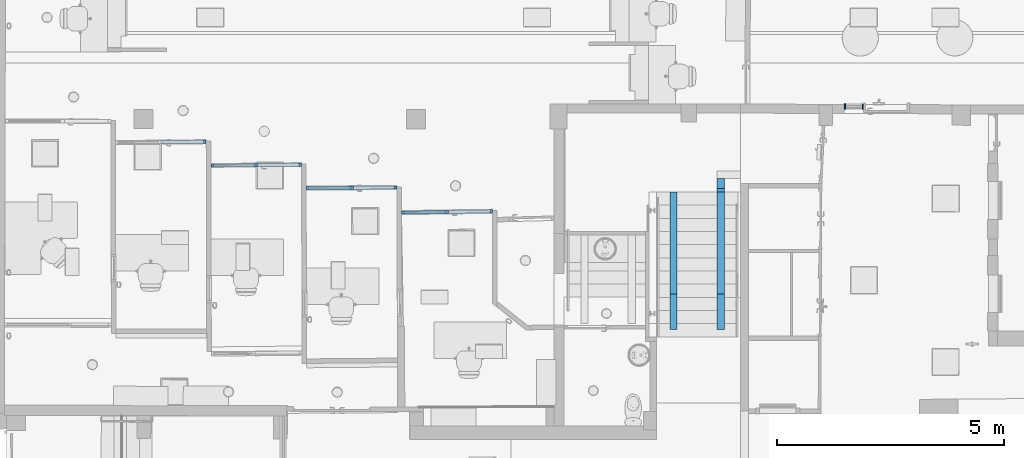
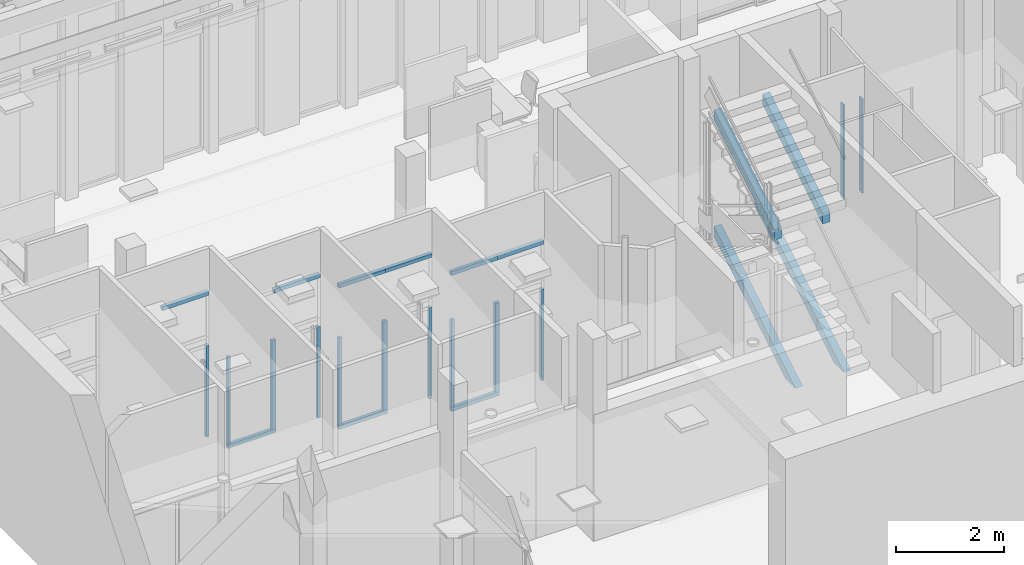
# One storey, part 7 of 128: 25 members, 6 elements without a shape of their own.
"""IFC2X3 building model written with IfcOpenShell, lengths in metres."""

from ifc_helpers import new_model, entity, si_unit, converted_unit, derived_unit, direction, frame, frame_2d, origin, origin_2d_with_axis, place, context, subcontext, project, spatial, polyline, rectangle, outline, extrude, source, transform, mapped, material, type_object, type_shapes, element, aggregate, save


model = new_model("IFC2X3")

# Units and contexts
model_context = context("Model", 3, precision=1e-05, world=origin(), true_north=direction((6.123031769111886e-17, 1.0)))
body_context = subcontext(model_context, "Body", "Model", "MODEL_VIEW")
ifc_project = project(units=[si_unit("LENGTHUNIT", "METRE"), si_unit("AREAUNIT", "SQUARE_METRE"), converted_unit("PLANEANGLEUNIT", "DEGREE", entity("IfcPlaneAngleMeasure", 0.017453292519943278), si_unit("PLANEANGLEUNIT", "RADIAN"), dimensions=[0, 0, 0, 0, 0, 0, 0]), derived_unit("THERMALTRANSMITTANCEUNIT", [(si_unit("MASSUNIT", "GRAM", prefix="KILO"), 1), (si_unit("THERMODYNAMICTEMPERATUREUNIT", "KELVIN"), -1), (si_unit("TIMEUNIT", "SECOND"), -3)])], contexts=[model_context])

# Site, building, storey
site_placement = place(None, origin())
site = spatial("IfcSite", under=ifc_project, at=site_placement, Name="Default", CompositionType="ELEMENT")
building_placement = place(site_placement, origin())
building = spatial("IfcBuilding", under=site, at=building_placement, CompositionType="ELEMENT")
storey_placement = place(building_placement, origin())
storey = spatial("IfcBuildingStorey", under=building, at=storey_placement, Name="00_RDC CAF", CompositionType="ELEMENT", Elevation=2.4982504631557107e-13)

# Curtain wall, member
curtain_wall_type_1 = type_object("IfcCurtainWallType", Name="Mur-rideau:M.Ri_Vitre_40mm_Montant_70X90mm", PredefinedType="NOTDEFINED")
curtain_wall_1_placement = place(storey_placement, origin())
curtain_wall_1 = element("IfcCurtainWall", 1, at=curtain_wall_1_placement, inside=storey, type_object=curtain_wall_type_1, Name="Mur-rideau:M.Ri_Vitre_40mm_Montant_70X90mm", ObjectType="Mur-rideau:M.Ri_Vitre_40mm_Montant_70X90mm")
ifc_material_1 = material(Name="ARC - M.In - Blanc")
member_type_1 = type_object("IfcMemberType", Name="Meneau rectangulaire:M.Ri.M_Int_Rectangulaire_90x70mm", PredefinedType="MULLION", material=ifc_material_1)
shared_shape_1 = source(origin(), body_context, "Body", "SweptSolid", [
    extrude(rectangle(XDim=0.09, YDim=0.06999999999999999, at=origin_2d_with_axis()), frame((-0.045, 0.0, -1.0058180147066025), z_axis=(0.0, 0.0, 1.0), x_axis=(-1.0, 0.0, 0.0)), (0.0, 0.0, 1.0), 1.0058180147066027),
])
type_shapes(member_type_1, [shared_shape_1])
member_1_placement = place(curtain_wall_1_placement, frame((11.111169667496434, 136.0535305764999, 3.294999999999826), z_axis=(0.9999489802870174, 0.010101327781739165, 0.0), x_axis=(0.0, 0.0, 1.0)))
member_1 = element("IfcMember", 2, at=member_1_placement, type_object=member_type_1, material=ifc_material_1, Name="Meneau rectangulaire:M.Ri.M_Int_Rectangulaire_90x70mm", ObjectType="Meneau rectangulaire:M.Ri.M_Int_Rectangulaire_90x70mm", context=body_context, shape_type="MappedRepresentation", body=[
    mapped(shared_shape_1, transform((0.0, 0.0, 0.0), scale=1.0)),
])

curtain_wall_2_placement = place(storey_placement, origin())
curtain_wall_2 = element("IfcCurtainWall", 3, at=curtain_wall_2_placement, inside=storey, type_object=curtain_wall_type_1, Name="Mur-rideau:M.Ri_Vitre_40mm_Montant_70X90mm", ObjectType="Mur-rideau:M.Ri_Vitre_40mm_Montant_70X90mm")
member_2_placement = place(curtain_wall_2_placement, frame((13.209965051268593, 135.54648401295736, 3.2649999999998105), z_axis=(0.9999489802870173, 0.010101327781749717, 0.0), x_axis=(0.0, 0.0, 1.0)))
member_2 = element("IfcMember", 4, at=member_2_placement, type_object=member_type_1, material=ifc_material_1, Name="Meneau rectangulaire:M.Ri.M_Int_Rectangulaire_90x70mm", ObjectType="Meneau rectangulaire:M.Ri.M_Int_Rectangulaire_90x70mm", context=body_context, shape_type="MappedRepresentation", body=[
    mapped(shared_shape_1, transform((0.0, 0.0, 0.0), scale=1.0)),
])

# Member
member_type_2 = type_object("IfcMemberType", Name="Meneau rectangulaire:M.Ri.M_Int_Rectangulaire_60x70mm", PredefinedType="MULLION", material=ifc_material_1)
shared_shape_2 = source(origin(), body_context, "Body", "SweptSolid", [
    extrude(rectangle(XDim=0.06, YDim=0.07, at=frame_2d((0.0, 3.469446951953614e-18), x_axis=(1.0, 0.0))), frame((-0.03, 0.0, -2.0749999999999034), z_axis=(0.0, 0.0, 1.0), x_axis=(-1.0, 0.0, 0.0)), (0.0, 0.0, 1.0), 2.0749999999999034),
])
type_shapes(member_type_2, [shared_shape_2])
member_3_placement = place(curtain_wall_1_placement, frame((11.111169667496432, 136.0535305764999, 0.0), z_axis=(0.0, 0.0, -1.0), x_axis=(0.9999489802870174, 0.010101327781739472, 0.0)))
member_3 = element("IfcMember", 5, at=member_3_placement, type_object=member_type_2, material=ifc_material_1, Name="Meneau rectangulaire:M.Ri.M_Int_Rectangulaire_60x70mm", ObjectType="Meneau rectangulaire:M.Ri.M_Int_Rectangulaire_60x70mm", context=body_context, shape_type="MappedRepresentation", body=[
    mapped(shared_shape_2, transform((0.0, 0.0, 0.0), scale=1.0)),
])

aggregate(curtain_wall_1, [member_1, member_3])

member_4_placement = place(curtain_wall_2_placement, frame((13.209965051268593, 135.54648401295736, 0.0), z_axis=(0.0, 0.0, -1.0), x_axis=(0.9999489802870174, 0.010101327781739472, 0.0)))
member_4 = element("IfcMember", 6, at=member_4_placement, type_object=member_type_2, material=ifc_material_1, Name="Meneau rectangulaire:M.Ri.M_Int_Rectangulaire_60x70mm", ObjectType="Meneau rectangulaire:M.Ri.M_Int_Rectangulaire_60x70mm", context=body_context, shape_type="MappedRepresentation", body=[
    mapped(shared_shape_2, transform((0.0, 0.0, 0.0), scale=1.0)),
])

# Curtain wall, member
curtain_wall_3_placement = place(storey_placement, origin())
curtain_wall_3 = element("IfcCurtainWall", 7, at=curtain_wall_3_placement, inside=storey, type_object=curtain_wall_type_1, Name="Mur-rideau:M.Ri_Vitre_40mm_Montant_70X90mm", ObjectType="Mur-rideau:M.Ri_Vitre_40mm_Montant_70X90mm")
member_5_placement = place(curtain_wall_3_placement, frame((15.313763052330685, 135.04352005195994, 0.0), z_axis=(0.0, 0.0, -1.0), x_axis=(0.9999841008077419, 0.005638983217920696, 0.0)))
member_5 = element("IfcMember", 8, at=member_5_placement, type_object=member_type_2, material=ifc_material_1, Name="Meneau rectangulaire:M.Ri.M_Int_Rectangulaire_60x70mm", ObjectType="Meneau rectangulaire:M.Ri.M_Int_Rectangulaire_60x70mm", context=body_context, shape_type="MappedRepresentation", body=[
    mapped(shared_shape_2, transform((0.0, 0.0, 0.0), scale=1.0)),
])

curtain_wall_4_placement = place(storey_placement, origin())
curtain_wall_4 = element("IfcCurtainWall", 9, at=curtain_wall_4_placement, inside=storey, type_object=curtain_wall_type_1, Name="Mur-rideau:M.Ri_Vitre_40mm_Montant_70X90mm", ObjectType="Mur-rideau:M.Ri_Vitre_40mm_Montant_70X90mm")
member_6_placement = place(curtain_wall_4_placement, frame((17.418983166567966, 134.51996317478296, 0.0), z_axis=(0.0, 0.0, -1.0), x_axis=(0.9998908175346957, 0.014776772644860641, 0.0)))
member_6 = element("IfcMember", 10, at=member_6_placement, type_object=member_type_2, material=ifc_material_1, Name="Meneau rectangulaire:M.Ri.M_Int_Rectangulaire_60x70mm", ObjectType="Meneau rectangulaire:M.Ri.M_Int_Rectangulaire_60x70mm", context=body_context, shape_type="MappedRepresentation", body=[
    mapped(shared_shape_2, transform((0.0, 0.0, 0.0), scale=1.0)),
])

# Member
member_type_3 = type_object("IfcMemberType", Name="Meneau rectangulaire:M.Ri.M_Int_Rectangulaire_60x70mm", PredefinedType="MULLION", material=ifc_material_1)
shared_shape_3 = source(origin(), body_context, "Body", "SweptSolid", [
    extrude(rectangle(XDim=0.06, YDim=0.07, at=frame_2d((0.0, 3.469446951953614e-18), x_axis=(1.0, 0.0))), frame((-0.03, 0.0, -1.9849999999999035), z_axis=(0.0, 0.0, 1.0), x_axis=(-1.0, 0.0, 0.0)), (0.0, 0.0, 1.0), 1.9849999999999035),
])
type_shapes(member_type_3, [shared_shape_3])
member_7_placement = place(curtain_wall_2_placement, frame((11.212610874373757, 135.52630705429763, 2.074999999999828), z_axis=(0.0, 0.0, 1.0), x_axis=(-0.9999489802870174, -0.010101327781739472, 0.0)))
member_7 = element("IfcMember", 11, at=member_7_placement, type_object=member_type_3, material=ifc_material_1, Name="Meneau rectangulaire:M.Ri.M_Int_Rectangulaire_60x70mm", ObjectType="Meneau rectangulaire:M.Ri.M_Int_Rectangulaire_60x70mm", context=body_context, shape_type="MappedRepresentation", body=[
    mapped(shared_shape_3, transform((0.0, 0.0, 0.0), scale=1.0)),
])

member_8_placement = place(curtain_wall_3_placement, frame((13.312493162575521, 135.03223474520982, 2.0749999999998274), z_axis=(0.0, 0.0, 1.0), x_axis=(-0.9999841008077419, -0.005638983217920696, 0.0)))
member_8 = element("IfcMember", 12, at=member_8_placement, type_object=member_type_3, material=ifc_material_1, Name="Meneau rectangulaire:M.Ri.M_Int_Rectangulaire_60x70mm", ObjectType="Meneau rectangulaire:M.Ri.M_Int_Rectangulaire_60x70mm", context=body_context, shape_type="MappedRepresentation", body=[
    mapped(shared_shape_3, transform((0.0, 0.0, 0.0), scale=1.0)),
])

member_9_placement = place(curtain_wall_4_placement, frame((15.415211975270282, 134.49035067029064, 2.074999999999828), z_axis=(0.0, 0.0, 1.0), x_axis=(-0.9998908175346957, -0.014776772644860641, 0.0)))
member_9 = element("IfcMember", 13, at=member_9_placement, type_object=member_type_3, material=ifc_material_1, Name="Meneau rectangulaire:M.Ri.M_Int_Rectangulaire_60x70mm", ObjectType="Meneau rectangulaire:M.Ri.M_Int_Rectangulaire_60x70mm", context=body_context, shape_type="MappedRepresentation", body=[
    mapped(shared_shape_3, transform((0.0, 0.0, 0.0), scale=1.0)),
])

member_type_4 = type_object("IfcMemberType", Name="Meneau rectangulaire:M.Ri.M_Int_Rectangulaire_90x70mm", PredefinedType="MULLION", material=ifc_material_1)
shared_shape_4 = source(origin(), body_context, "Body", "SweptSolid", [
    extrude(rectangle(XDim=0.09, YDim=0.06999999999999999, at=origin_2d_with_axis()), frame((-0.045, 0.0, -0.99572234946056), z_axis=(0.0, 0.0, 1.0), x_axis=(-1.0, 0.0, 0.0)), (0.0, 0.0, 1.0), 0.9957223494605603),
])
type_shapes(member_type_4, [shared_shape_4])
member_10_placement = place(curtain_wall_3_placement, frame((14.30819968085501, 135.03784960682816, 3.294999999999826), z_axis=(0.9999841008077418, 0.0056389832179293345, 0.0), x_axis=(0.0, 0.0, 1.0)))
member_10 = element("IfcMember", 14, at=member_10_placement, type_object=member_type_4, material=ifc_material_1, Name="Meneau rectangulaire:M.Ri.M_Int_Rectangulaire_90x70mm", ObjectType="Meneau rectangulaire:M.Ri.M_Int_Rectangulaire_90x70mm", context=body_context, shape_type="MappedRepresentation", body=[
    mapped(shared_shape_4, transform((0.0, 0.0, 0.0), scale=1.0)),
])

member_type_5 = type_object("IfcMemberType", Name="Meneau rectangulaire:M.Ri.M_Int_Rectangulaire_90x70mm", PredefinedType="MULLION", material=ifc_material_1)
shared_shape_5 = source(origin(), body_context, "Body", "SweptSolid", [
    extrude(rectangle(XDim=0.09, YDim=0.07, at=origin_2d_with_axis()), frame((0.0, 0.0, -2.019999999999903), z_axis=(0.0, 0.0, 1.0), x_axis=(-1.0, 0.0, 0.0)), (0.0, 0.0, 1.0), 2.019999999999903),
])
type_shapes(member_type_5, [shared_shape_5])
member_11_placement = place(curtain_wall_2_placement, frame((12.204204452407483, 135.53632397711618, 0.08999999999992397), z_axis=(0.0, 0.0, -1.0), x_axis=(0.9999489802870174, 0.010101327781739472, 0.0)))
member_11 = element("IfcMember", 15, at=member_11_placement, type_object=member_type_5, material=ifc_material_1, Name="Meneau rectangulaire:M.Ri.M_Int_Rectangulaire_90x70mm", ObjectType="Meneau rectangulaire:M.Ri.M_Int_Rectangulaire_90x70mm", context=body_context, shape_type="MappedRepresentation", body=[
    mapped(shared_shape_5, transform((0.0, 0.0, 0.0), scale=1.0)),
])

member_12_placement = place(curtain_wall_3_placement, frame((14.308199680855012, 135.03784960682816, 0.08999999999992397), z_axis=(0.0, 0.0, -1.0), x_axis=(0.9999841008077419, 0.005638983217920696, 0.0)))
member_12 = element("IfcMember", 16, at=member_12_placement, type_object=member_type_5, material=ifc_material_1, Name="Meneau rectangulaire:M.Ri.M_Int_Rectangulaire_90x70mm", ObjectType="Meneau rectangulaire:M.Ri.M_Int_Rectangulaire_90x70mm", context=body_context, shape_type="MappedRepresentation", body=[
    mapped(shared_shape_5, transform((0.0, 0.0, 0.0), scale=1.0)),
])

member_13_placement = place(curtain_wall_4_placement, frame((16.408508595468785, 134.50502999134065, 0.08999999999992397), z_axis=(0.0, 0.0, -1.0), x_axis=(0.9998908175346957, 0.014776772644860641, 0.0)))
member_13 = element("IfcMember", 17, at=member_13_placement, type_object=member_type_5, material=ifc_material_1, Name="Meneau rectangulaire:M.Ri.M_Int_Rectangulaire_90x70mm", ObjectType="Meneau rectangulaire:M.Ri.M_Int_Rectangulaire_90x70mm", context=body_context, shape_type="MappedRepresentation", body=[
    mapped(shared_shape_5, transform((0.0, 0.0, 0.0), scale=1.0)),
])

member_type_6 = type_object("IfcMemberType", Name="Meneau rectangulaire:M.Ri.M_Int_Rectangulaire_90x70mm", PredefinedType="MULLION", material=ifc_material_1)
shared_shape_6 = source(origin(), body_context, "Body", "SweptSolid", [
    extrude(rectangle(XDim=0.09, YDim=0.06999999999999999, at=origin_2d_with_axis()), frame((-0.045, 0.0, -1.0407223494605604), z_axis=(0.0, 0.0, 1.0), x_axis=(-1.0, 0.0, 0.0)), (0.0, 0.0, 1.0), 1.0407223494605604),
])
type_shapes(member_type_6, [shared_shape_6])
member_14_placement = place(curtain_wall_3_placement, frame((13.31249316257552, 135.03223474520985, 0.0), z_axis=(-0.9999841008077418, -0.0056389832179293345, 0.0), x_axis=(0.0, 0.0, -1.0)))
member_14 = element("IfcMember", 18, at=member_14_placement, type_object=member_type_6, material=ifc_material_1, Name="Meneau rectangulaire:M.Ri.M_Int_Rectangulaire_90x70mm", ObjectType="Meneau rectangulaire:M.Ri.M_Int_Rectangulaire_90x70mm", context=body_context, shape_type="MappedRepresentation", body=[
    mapped(shared_shape_6, transform((0.0, 0.0, 0.0), scale=1.0)),
])

member_type_7 = type_object("IfcMemberType", Name="Meneau rectangulaire:M.Ri.M_Int_Rectangulaire_90x70mm", PredefinedType="MULLION", material=ifc_material_1)
shared_shape_7 = source(origin(), body_context, "Body", "SweptSolid", [
    extrude(rectangle(XDim=0.09, YDim=0.06999999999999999, at=origin_2d_with_axis()), frame((-0.045, 0.0, -1.036644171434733), z_axis=(0.0, 0.0, 1.0), x_axis=(-1.0, 0.0, 0.0)), (0.0, 0.0, 1.0), 1.036644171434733),
])
type_shapes(member_type_7, [shared_shape_7])
member_15_placement = place(curtain_wall_2_placement, frame((11.212610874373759, 135.52630705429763, 0.0), z_axis=(-0.9999489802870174, -0.010101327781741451, 0.0), x_axis=(0.0, 0.0, -1.0)))
member_15 = element("IfcMember", 19, at=member_15_placement, type_object=member_type_7, material=ifc_material_1, Name="Meneau rectangulaire:M.Ri.M_Int_Rectangulaire_90x70mm", ObjectType="Meneau rectangulaire:M.Ri.M_Int_Rectangulaire_90x70mm", context=body_context, shape_type="MappedRepresentation", body=[
    mapped(shared_shape_7, transform((0.0, 0.0, 0.0), scale=1.0)),
])

aggregate(curtain_wall_2, [member_2, member_4, member_7, member_11, member_15])

member_type_8 = type_object("IfcMemberType", Name="Meneau rectangulaire:M.Ri.M_Int_Rectangulaire_90x70mm", PredefinedType="MULLION", material=ifc_material_1)
shared_shape_8 = source(origin(), body_context, "Body", "SweptSolid", [
    extrude(rectangle(XDim=0.09, YDim=0.06999999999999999, at=origin_2d_with_axis()), frame((-0.045, 0.0, -1.005579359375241), z_axis=(0.0, 0.0, 1.0), x_axis=(-1.0, 0.0, 0.0)), (0.0, 0.0, 1.0), 1.0055793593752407),
])
type_shapes(member_type_8, [shared_shape_8])
member_16_placement = place(curtain_wall_3_placement, frame((15.313763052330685, 135.04352005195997, 3.294999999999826), z_axis=(0.999984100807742, 0.005638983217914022, 0.0), x_axis=(0.0, 0.0, 1.0)))
member_16 = element("IfcMember", 20, at=member_16_placement, type_object=member_type_8, material=ifc_material_1, Name="Meneau rectangulaire:M.Ri.M_Int_Rectangulaire_90x70mm", ObjectType="Meneau rectangulaire:M.Ri.M_Int_Rectangulaire_90x70mm", context=body_context, shape_type="MappedRepresentation", body=[
    mapped(shared_shape_8, transform((0.0, 0.0, 0.0), scale=1.0)),
])

aggregate(curtain_wall_3, [member_16, member_5, member_8, member_10, member_12, member_14])

member_type_9 = type_object("IfcMemberType", Name="Meneau rectangulaire:M.Ri.M_Int_Rectangulaire_90x70mm", PredefinedType="MULLION", material=ifc_material_1)
shared_shape_9 = source(origin(), body_context, "Body", "SweptSolid", [
    extrude(rectangle(XDim=0.09, YDim=0.06999999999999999, at=origin_2d_with_axis()), frame((-0.045, 0.0, -1.0105849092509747), z_axis=(0.0, 0.0, 1.0), x_axis=(-1.0, 0.0, 0.0)), (0.0, 0.0, 1.0), 1.0105849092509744),
])
type_shapes(member_type_9, [shared_shape_9])
member_17_placement = place(curtain_wall_4_placement, frame((17.41898316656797, 134.51996317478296, 3.1749999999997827), z_axis=(0.9998908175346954, 0.014776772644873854, 0.0), x_axis=(0.0, 0.0, 1.0)))
member_17 = element("IfcMember", 21, at=member_17_placement, type_object=member_type_9, material=ifc_material_1, Name="Meneau rectangulaire:M.Ri.M_Int_Rectangulaire_90x70mm", ObjectType="Meneau rectangulaire:M.Ri.M_Int_Rectangulaire_90x70mm", context=body_context, shape_type="MappedRepresentation", body=[
    mapped(shared_shape_9, transform((0.0, 0.0, 0.0), scale=1.0)),
])

member_type_10 = type_object("IfcMemberType", Name="Meneau rectangulaire:M.Ri.M_Int_Rectangulaire_90x70mm", PredefinedType="MULLION", material=ifc_material_1)
shared_shape_10 = source(origin(), body_context, "Body", "SweptSolid", [
    extrude(rectangle(XDim=0.09, YDim=0.06999999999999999, at=origin_2d_with_axis()), frame((-0.045, 0.0, -0.9934050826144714), z_axis=(0.0, 0.0, 1.0), x_axis=(-1.0, 0.0, 0.0)), (0.0, 0.0, 1.0), 0.9934050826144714),
])
type_shapes(member_type_10, [shared_shape_10])
member_18_placement = place(curtain_wall_4_placement, frame((16.40850859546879, 134.50502999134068, 3.1749999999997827), z_axis=(0.9998908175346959, 0.01477677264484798, 0.0), x_axis=(0.0, 0.0, 1.0)))
member_18 = element("IfcMember", 22, at=member_18_placement, type_object=member_type_10, material=ifc_material_1, Name="Meneau rectangulaire:M.Ri.M_Int_Rectangulaire_90x70mm", ObjectType="Meneau rectangulaire:M.Ri.M_Int_Rectangulaire_90x70mm", context=body_context, shape_type="MappedRepresentation", body=[
    mapped(shared_shape_10, transform((0.0, 0.0, 0.0), scale=1.0)),
])

member_type_11 = type_object("IfcMemberType", Name="Meneau rectangulaire:M.Ri.M_Int_Rectangulaire_90x70mm", PredefinedType="MULLION", material=ifc_material_1)
shared_shape_11 = source(origin(), body_context, "Body", "SweptSolid", [
    extrude(rectangle(XDim=0.09, YDim=0.06999999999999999, at=origin_2d_with_axis()), frame((-0.045, 0.0, -1.0384050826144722), z_axis=(0.0, 0.0, 1.0), x_axis=(-1.0, 0.0, 0.0)), (0.0, 0.0, 1.0), 1.0384050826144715),
])
type_shapes(member_type_11, [shared_shape_11])
member_19_placement = place(curtain_wall_4_placement, frame((15.41521197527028, 134.49035067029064, 0.0), z_axis=(-0.9998908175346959, -0.01477677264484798, 0.0), x_axis=(0.0, 0.0, -1.0)))
member_19 = element("IfcMember", 23, at=member_19_placement, type_object=member_type_11, material=ifc_material_1, Name="Meneau rectangulaire:M.Ri.M_Int_Rectangulaire_90x70mm", ObjectType="Meneau rectangulaire:M.Ri.M_Int_Rectangulaire_90x70mm", context=body_context, shape_type="MappedRepresentation", body=[
    mapped(shared_shape_11, transform((0.0, 0.0, 0.0), scale=1.0)),
])

aggregate(curtain_wall_4, [member_17, member_6, member_9, member_18, member_13, member_19])

# Stair, members
type_product = type_object("IfcTypeProduct", Name="Escalier assemblé:E_Escalier_Assemble_Béton 2")
stair_placement = place(storey_placement, origin())
stair = element("IfcStair", 24, at=stair_placement, inside=storey, type_object=type_product, Name="Escalier assemblé:Escalier", ObjectType="Escalier assemblé:E_Escalier_Assemble_Béton 2", ShapeType="NOTDEFINED")
ifc_material_2 = material(Name="<Unnamed>")
member_type_12 = type_object("IfcMemberType", Name="Limon à crémaillère:Limon à crémaillère - Largeur 160 mm 2", PredefinedType="STRINGER")
member_20_placement = place(stair_placement, origin())
member_20 = element("IfcMember", 25, at=member_20_placement, type_object=member_type_12, material=ifc_material_2, Name="Escalier assemblé:Escalier:459485 Stringer 1", ObjectType="Limon à crémaillère:Limon à crémaillère - Largeur 160 mm 2", context=body_context, shape_type="SweptSolid", body=[
    extrude(outline(polyline([(-1.761147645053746, -0.02857142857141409), (-1.5107919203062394, -0.028571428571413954), (-1.1715234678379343, -0.02857142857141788), (-0.8322550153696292, -0.02857142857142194), (-0.4929865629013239, -0.028571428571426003), (-0.15371811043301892, -0.028571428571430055), (0.1855503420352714, -0.028571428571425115), (0.5248187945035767, -0.028571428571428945), (0.8640872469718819, -0.028571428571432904), (1.203355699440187, -0.028571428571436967), (1.5426241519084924, -0.028571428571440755), (1.7855516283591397, -0.02857142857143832), (1.4561501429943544, 0.1714285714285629), (-1.6397152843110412, 0.1714285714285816), (-1.761147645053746, -0.02857142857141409)])), frame((21.32912785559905, 133.4529169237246, 0.9022610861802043), z_axis=(1.0, 0.0, 0.0), x_axis=(0.0, -0.8547803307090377, -0.5189899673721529)), (0.0, 0.0, 1.0), 0.15999999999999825),
])
member_21_placement = place(stair_placement, origin())
member_21 = element("IfcMember", 26, at=member_21_placement, type_object=member_type_12, material=ifc_material_2, Name="Escalier assemblé:Escalier:459485 Stringer 2", ObjectType="Limon à crémaillère:Limon à crémaillère - Largeur 160 mm 2", context=body_context, shape_type="SweptSolid", body=[
    extrude(outline(polyline([(-1.6461282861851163, -0.9037265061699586), (-1.422129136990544, -0.9037265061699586), (-1.1321291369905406, -0.7276495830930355), (-0.8421291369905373, -0.5515726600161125), (-0.5521291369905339, -0.37549573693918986), (-0.26212913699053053, -0.19941881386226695), (0.027870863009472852, -0.02334189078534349), (0.3178708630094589, 0.1527350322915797), (0.6078708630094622, 0.32881195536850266), (0.8978708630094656, 0.5048888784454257), (1.187870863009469, 0.6809658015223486), (1.4778708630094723, 0.8570427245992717), (1.6855204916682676, 0.9831196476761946), (1.300156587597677, 0.9831196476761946), (-1.6461282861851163, -0.8057519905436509), (-1.6461282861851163, -0.9037265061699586)])), frame((22.369127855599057, 133.5973547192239, 0.9831196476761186), z_axis=(1.0, 0.0, 0.0), x_axis=(0.0, -1.0, 0.0)), (0.0, 0.0, 1.0), 0.15999999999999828),
])
member_22_placement = place(stair_placement, origin())
member_22 = element("IfcMember", 27, at=member_22_placement, type_object=member_type_12, material=ifc_material_2, Name="Escalier assemblé:Escalier:459485 Stringer 5", ObjectType="Limon à crémaillère:Limon à crémaillère - Largeur 160 mm 2", context=body_context, shape_type="SweptSolid", body=[
    extrude(outline(polyline([(-1.3064056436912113, -0.036363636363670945), (-1.0560499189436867, -0.03636363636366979), (-0.7167814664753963, -0.03636363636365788), (-0.3775130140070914, -0.03636363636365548), (-0.03824456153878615, -0.03636363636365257), (0.3010238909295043, -0.03636363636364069), (0.6402923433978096, -0.036363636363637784), (0.9795607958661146, -0.03636363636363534), (1.318829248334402, -0.03636363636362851), (1.4402616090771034, 0.16363636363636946), (-1.1849732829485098, 0.1636363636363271), (-1.3064056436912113, -0.036363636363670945)])), frame((21.329127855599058, 133.8456655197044, 3.772760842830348), z_axis=(1.0, 0.0, 0.0), x_axis=(0.0, -0.8547803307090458, -0.5189899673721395)), (0.0, 0.0, 1.0), 0.15999999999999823),
])
member_23_placement = place(stair_placement, origin())
member_23 = element("IfcMember", 28, at=member_23_placement, type_object=member_type_12, material=ifc_material_2, Name="Escalier assemblé:Escalier:459485 Stringer 6", ObjectType="Limon à crémaillère:Limon à crémaillère - Largeur 160 mm 2", context=body_context, shape_type="SweptSolid", body=[
    extrude(outline(polyline([(-1.3064056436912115, -0.0363636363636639), (-1.056049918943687, -0.03636363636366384), (-0.7167814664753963, -0.03636363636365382), (-0.37751301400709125, -0.03636363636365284), (-0.038244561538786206, -0.036363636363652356), (0.3010238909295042, -0.036363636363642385), (0.6402923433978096, -0.036363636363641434), (0.9795607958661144, -0.03636363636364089), (1.3188292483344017, -0.036363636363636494), (1.4402616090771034, 0.1636363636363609), (-1.1849732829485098, 0.1636363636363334), (-1.3064056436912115, -0.0363636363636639)])), frame((22.36912785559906, 133.8456655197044, 3.772760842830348), z_axis=(1.0, 0.0, 0.0), x_axis=(0.0, -0.8547803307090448, -0.5189899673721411)), (0.0, 0.0, 1.0), 0.15999999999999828),
])
aggregate(stair, [member_20, member_21, member_22, member_23])

# Curtain wall, members
curtain_wall_type_2 = type_object("IfcCurtainWallType", Name="Mur-rideau:M.Ri._Vitre_40mm_Montant_115mm", PredefinedType="NOTDEFINED")
curtain_wall_5_placement = place(storey_placement, origin())
curtain_wall_5 = element("IfcCurtainWall", 29, at=curtain_wall_5_placement, inside=storey, type_object=curtain_wall_type_2, Name="Mur-rideau:M.Ri._Vitre_40mm_Montant_115mm", ObjectType="Mur-rideau:M.Ri._Vitre_40mm_Montant_115mm")
member_type_13 = type_object("IfcMemberType", Name="Meneau rectangulaire:M.Ri.M_Int_Rectangulaire_30x115mm", PredefinedType="MULLION", material=ifc_material_1)
shared_shape_12 = source(origin(), body_context, "Body", "SweptSolid", [
    extrude(rectangle(XDim=0.03, YDim=0.11500000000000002, at=frame_2d((0.0, -3.469446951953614e-18), x_axis=(1.0, 0.0))), frame((-0.015, 0.0, -2.135), z_axis=(0.0, 0.0, 1.0), x_axis=(-1.0, 0.0, 0.0)), (0.0, 0.0, 1.0), 2.135),
])
type_shapes(member_type_13, [shared_shape_12])
member_24_placement = place(curtain_wall_5_placement, frame((25.592406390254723, 136.825537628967, 0.0), z_axis=(0.0, 0.0, -1.0), x_axis=(1.0, 0.0, 0.0)))
member_24 = element("IfcMember", 30, at=member_24_placement, type_object=member_type_13, material=ifc_material_1, Name="Meneau rectangulaire:M.Ri.M_Int_Rectangulaire_30x115mm", ObjectType="Meneau rectangulaire:M.Ri.M_Int_Rectangulaire_30x115mm", context=body_context, shape_type="MappedRepresentation", body=[
    mapped(shared_shape_12, transform((0.0, 0.0, 0.0), scale=1.0)),
])
member_type_14 = type_object("IfcMemberType", Name="Meneau rectangulaire:M.Ri.M_Int_Rectangulaire_30x115mm", PredefinedType="MULLION", material=ifc_material_1)
shared_shape_13 = source(origin(), body_context, "Body", "SweptSolid", [
    extrude(rectangle(XDim=0.03, YDim=0.115, at=origin_2d_with_axis()), frame((-0.015, 0.0, -2.135), z_axis=(0.0, 0.0, 1.0), x_axis=(-1.0, 0.0, 0.0)), (0.0, 0.0, 1.0), 2.135),
])
type_shapes(member_type_14, [shared_shape_13])
member_25_placement = place(curtain_wall_5_placement, frame((25.169799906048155, 136.82700729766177, 2.134999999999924), z_axis=(0.0, 0.0, 1.0), x_axis=(-1.0, 0.0, 0.0)))
member_25 = element("IfcMember", 31, at=member_25_placement, type_object=member_type_14, material=ifc_material_1, Name="Meneau rectangulaire:M.Ri.M_Int_Rectangulaire_30x115mm", ObjectType="Meneau rectangulaire:M.Ri.M_Int_Rectangulaire_30x115mm", context=body_context, shape_type="MappedRepresentation", body=[
    mapped(shared_shape_13, transform((0.0, 0.0, 0.0), scale=1.0)),
])
aggregate(curtain_wall_5, [member_24, member_25])

save(model, "model.ifc")
